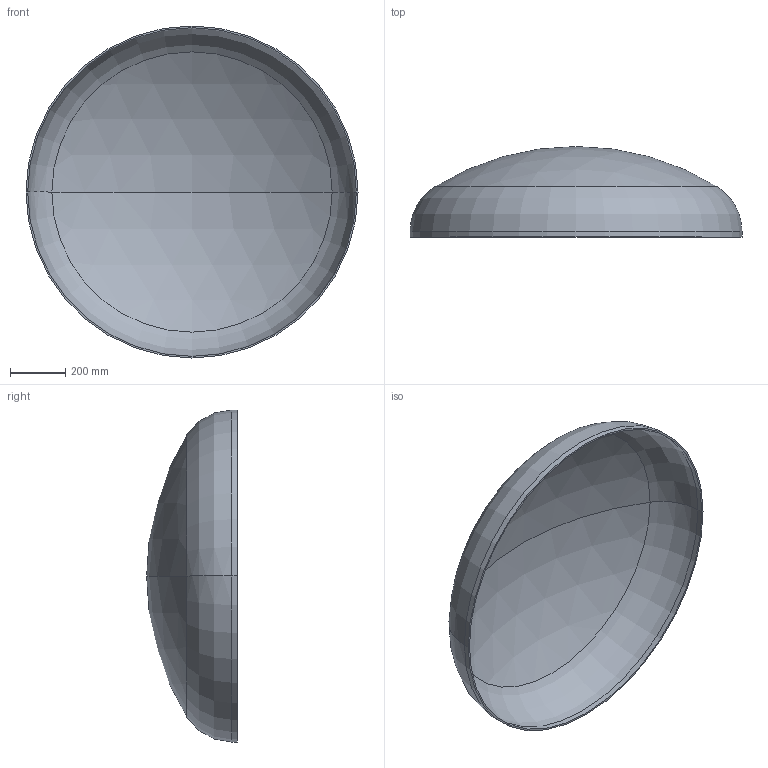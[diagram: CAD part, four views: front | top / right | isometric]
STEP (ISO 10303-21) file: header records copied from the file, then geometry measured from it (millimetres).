
FILE_DESCRIPTION (( 'STEP AP203' ), '1' );
FILE_NAME ('DIN 28013 Korbbogenform_-_Boden DIN 28013 - 1200 x 20 - I - s=6.step', '2016-07-01T09:19:33', ( '' ), ( '' ), 'SwSTEP 2.0', 'SolidWorks 2013', '' );
FILE_SCHEMA (( 'CONFIG_CONTROL_DESIGN' ));
Length unit declared in the file: millimetre
Products named in the file (1): DIN 28013 Korbbogenform_-_Boden DIN 28013 - 1200 x 20 - I - s=6
Bounding box: 1200 x 327.71 x 1200 mm (x, y, z)
Volume: 9788797.5 mm3; surface area: 3285513 mm2
Topology: 1 solids, 1 shells, 13 faces, 24 edges, 14 vertices
Faces by surface type: torus 4, cylinder 4, sphere 4, plane 1
Entity records: 407 total; most frequent: DIRECTION 72, CARTESIAN_POINT 52, ORIENTED_EDGE 48, AXIS2_PLACEMENT_3D 34, EDGE_CURVE 24, CIRCLE 20, EDGE_LOOP 14, VERTEX_POINT 14
